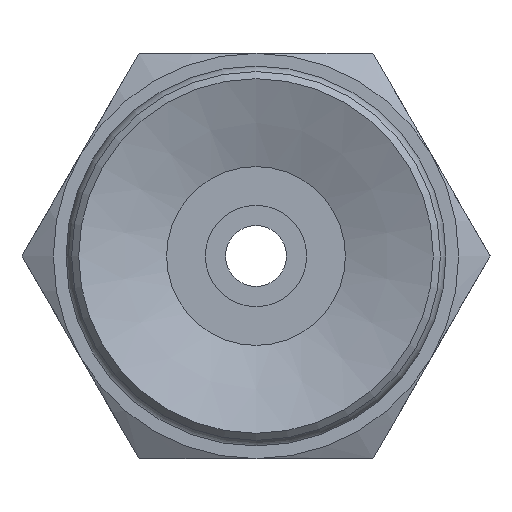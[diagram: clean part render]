
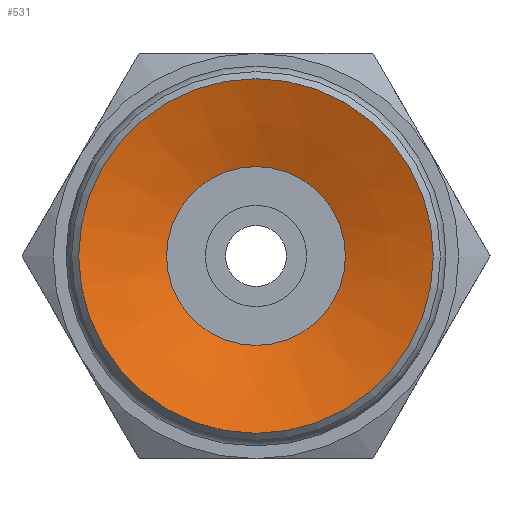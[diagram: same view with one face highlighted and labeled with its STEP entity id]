
A CAD part, front view. The second image highlights one B-rep face of the part: STEP entity #531.
In plain terms, the highlighted conical face has half-angle 70 degrees and reference radius 3.5 mm.
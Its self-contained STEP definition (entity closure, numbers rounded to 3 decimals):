
#531=ADVANCED_FACE('',(#755,#756),#757,.F.);
#755=FACE_BOUND('',#1058,.T.);
#756=FACE_OUTER_BOUND('',#1059,.T.);
#757=CONICAL_SURFACE('',#1060,3.5,1.222);
#1058=EDGE_LOOP('',(#1689));
#1059=EDGE_LOOP('',(#1690));
#1060=AXIS2_PLACEMENT_3D('',#1691,#1692,#1693);
#1689=ORIENTED_EDGE('',*,*,#2067,.F.);
#1690=ORIENTED_EDGE('',*,*,#2065,.T.);
#1691=CARTESIAN_POINT('',(0.0,0.0,0.0));
#1692=DIRECTION('',(-0.0,-1.0,0.));
#1693=DIRECTION('',(0.0,0.,-1.0));
#2065=EDGE_CURVE('',#2349,#2349,#2350,.T.);
#2067=EDGE_CURVE('',#2353,#2353,#2354,.T.);
#2349=VERTEX_POINT('',#2983);
#2350=CIRCLE('',#2984,3.5);
#2353=VERTEX_POINT('',#2987);
#2354=CIRCLE('',#2988,1.765);
#2983=CARTESIAN_POINT('',(0.0,0.,-3.5));
#2984=AXIS2_PLACEMENT_3D('',#3303,#3304,#3305);
#2987=CARTESIAN_POINT('',(0.0,0.632,-1.765));
#2988=AXIS2_PLACEMENT_3D('',#3309,#3310,#3311);
#3303=CARTESIAN_POINT('',(0.0,0.0,0.0));
#3304=DIRECTION('',(0.0,-1.0,0.));
#3305=DIRECTION('',(0.0,0.,-1.0));
#3309=CARTESIAN_POINT('',(0.0,0.632,0.0));
#3310=DIRECTION('',(0.0,-1.0,0.));
#3311=DIRECTION('',(0.0,0.,-1.0));
